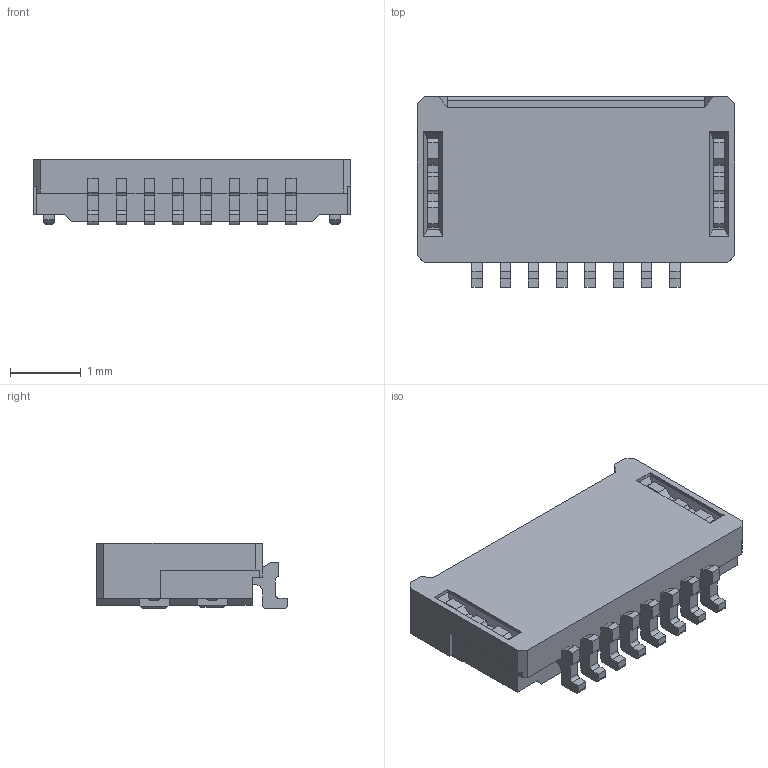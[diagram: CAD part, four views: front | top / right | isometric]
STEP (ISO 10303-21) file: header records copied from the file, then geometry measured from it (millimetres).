
FILE_DESCRIPTION (( 'STEP AP214' ), '1' );
FILE_NAME ('04_6824_608_000_846+.STEP', '2017-07-25T07:24:31', ( 'Asmin' ), ( '' ), 'SwSTEP 2.0', 'SolidWorks 2014', '' );
FILE_SCHEMA (( 'AUTOMOTIVE_DESIGN' ));
Length unit declared in the file: millimetre
Products named in the file (1): 04_6824_608_000_846+
Bounding box: 4.5 x 2.7 x 0.93 mm (x, y, z)
Volume: 6.4 mm3; surface area: 53.1 mm2
Topology: 1 solids, 1 shells, 266 faces, 770 edges, 508 vertices
Faces by surface type: plane 213, cylinder 53
Entity records: 11252 total; most frequent: CARTESIAN_POINT 1551, ORIENTED_EDGE 1540, DIRECTION 1406, EDGE_CURVE 770, VECTOR 664, LINE 664, VERTEX_POINT 508, AXIS2_PLACEMENT_3D 371
